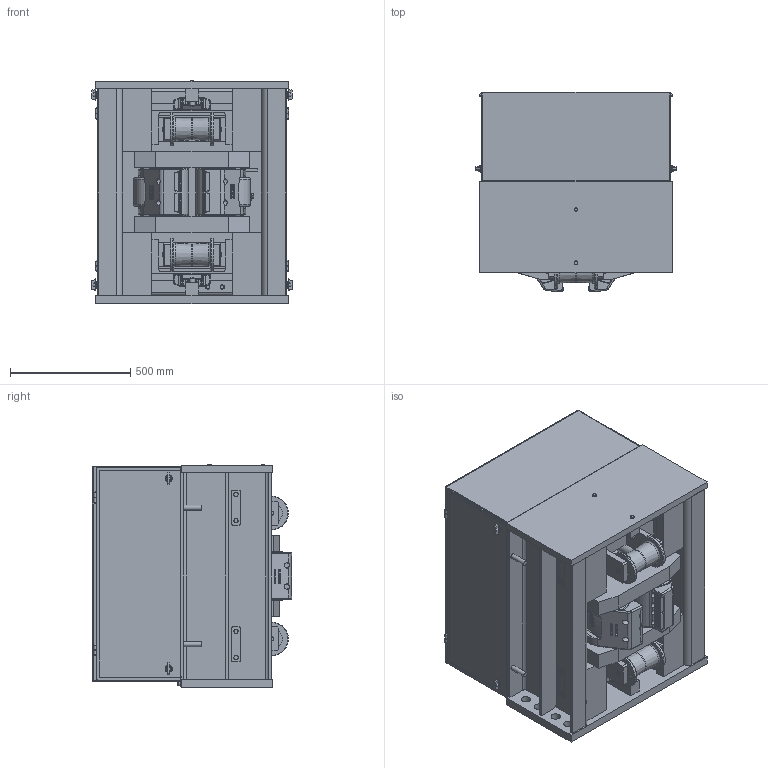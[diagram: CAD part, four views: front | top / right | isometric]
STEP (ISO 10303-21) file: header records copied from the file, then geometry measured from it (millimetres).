
FILE_DESCRIPTION(/* description */ (''),/* implementation_level */ '2;1');
FILE_NAME(/* name */ 'C:\Vault_Workspace\HILLMAR\HILLMAR PRODUCTION\02 STORM BRAKES\0100-2\01002083 CXHV-LH-300-600-LE\SM3D-CXHV-LH-300-600\40857.stp',/* time_stamp */ '2016-10-24T11:01:40+02:00',/* author */ ('vlakrc01'),/* organization */ (''),/* preprocessor_version */ 'ST-DEVELOPER v16.1',/* originating_system */ 'Autodesk Inventor 2016',/* authorisation */ '');
FILE_SCHEMA (('AUTOMOTIVE_DESIGN { 1 0 10303 214 3 1 1 }'));
Products named in the file (1): 40857
Bounding box: 834.58 x 829.65 x 930 mm (x, y, z)
Volume: 105592497 mm3; surface area: 13066515 mm2
Topology: 21 solids, 21 shells, 5320 faces, 13993 edges, 8855 vertices
Faces by surface type: plane 2860, cylinder 1100, bspline 663, cone 360, sphere 174, torus 163
Full cylindrical faces by diameter (mm): 5.5 x4, 9.188 x4, 9.8 x4, 10 x26, 10.109 x4, 15.4 x4, 15.6 x2, 16 x8, 16.739 x2, 17.793 x1, 18 x8, 18.647 x1, 19.05 x1, 20 x5, 21.031 x4, 22.4 x4, 24 x3, 25 x4, 27.7 x1, 30 x4, 39 x8, 47.75 x4, 50.8 x8, 90 x4, 140 x4, 142 x1, 145 x1, 150 x2, 172 x1, 175 x1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
Entity records: 183471 total; most frequent: CARTESIAN_POINT 54090, ORIENTED_EDGE 26890, DIRECTION 24272, EDGE_CURVE 13444, VERTEX_POINT 8690, AXIS2_PLACEMENT_3D 8385, LINE 7502, VECTOR 7502
